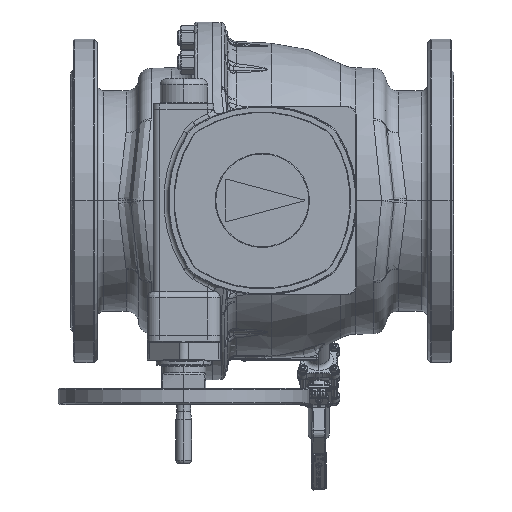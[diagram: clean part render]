
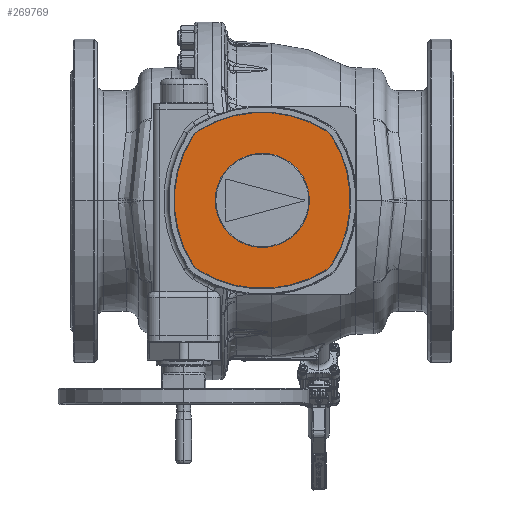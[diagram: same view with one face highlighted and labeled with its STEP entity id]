
A CAD part, top view. The second image highlights one B-rep face of the part: STEP entity #269769.
In plain terms, the highlighted planar face has unit normal (0, 0, 1).
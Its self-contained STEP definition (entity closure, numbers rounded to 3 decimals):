
#256549=CARTESIAN_POINT('',(0.,-50.,173.));
#256550=DIRECTION('',(0.,0.,-1.));
#256551=DIRECTION('',(-0.533,0.846,0.));
#256552=AXIS2_PLACEMENT_3D('',#256549,#256550,#256551);
#256563=CARTESIAN_POINT('',(85.34,85.34,173.));
#256564=DIRECTION('',(0.,0.,1.));
#256565=DIRECTION('',(0.846,0.533,0.));
#256566=AXIS2_PLACEMENT_3D('',#256563,#256564,#256565);
#256577=CARTESIAN_POINT('',(-50.,0.,173.));
#256578=DIRECTION('',(0.,0.,-1.));
#256579=DIRECTION('',(0.846,0.533,0.));
#256580=AXIS2_PLACEMENT_3D('',#256577,#256578,#256579);
#256591=CARTESIAN_POINT('',(85.34,-85.34,173.));
#256592=DIRECTION('',(0.,0.,1.));
#256593=DIRECTION('',(0.533,-0.846,0.));
#256594=AXIS2_PLACEMENT_3D('',#256591,#256592,#256593);
#256605=CARTESIAN_POINT('',(0.,50.,173.));
#256606=DIRECTION('',(0.,0.,-1.));
#256607=DIRECTION('',(0.533,-0.846,0.));
#256608=AXIS2_PLACEMENT_3D('',#256605,#256606,#256607);
#256619=CARTESIAN_POINT('',(-85.34,-85.34,173.));
#256620=DIRECTION('',(0.,0.,1.));
#256621=DIRECTION('',(-0.846,-0.533,0.));
#256622=AXIS2_PLACEMENT_3D('',#256619,#256620,#256621);
#256633=CARTESIAN_POINT('',(50.,0.,173.));
#256634=DIRECTION('',(0.,0.,-1.));
#256635=DIRECTION('',(-0.846,-0.533,0.));
#256636=AXIS2_PLACEMENT_3D('',#256633,#256634,#256635);
#256647=CARTESIAN_POINT('',(-85.34,85.34,173.));
#256648=DIRECTION('',(0.,0.,1.));
#256649=DIRECTION('',(-0.533,0.846,0.));
#256650=AXIS2_PLACEMENT_3D('',#256647,#256648,#256649);
#256652=CARTESIAN_POINT('',(0.,0.,173.));
#256653=DIRECTION('',(0.,0.,1.));
#256654=DIRECTION('',(-1.,0.,0.));
#256655=AXIS2_PLACEMENT_3D('',#256652,#256653,#256654);
#256657=CARTESIAN_POINT('',(0.,0.,173.));
#256658=DIRECTION('',(0.,0.,1.));
#256659=DIRECTION('',(1.,0.,0.));
#256660=AXIS2_PLACEMENT_3D('',#256657,#256658,#256659);
#262529=CARTESIAN_POINT('',(-75.,0.,173.));
#262530=CARTESIAN_POINT('',(75.,0.,173.));
#262531=VERTEX_POINT('',#262529);
#262532=VERTEX_POINT('',#262530);
#262533=CARTESIAN_POINT('',(101.342,-110.717,173.));
#262534=CARTESIAN_POINT('',(110.717,-101.342,173.));
#262535=VERTEX_POINT('',#262533);
#262536=VERTEX_POINT('',#262534);
#262537=CARTESIAN_POINT('',(110.717,101.342,173.));
#262538=VERTEX_POINT('',#262537);
#262539=CARTESIAN_POINT('',(101.342,110.717,173.));
#262540=VERTEX_POINT('',#262539);
#262541=CARTESIAN_POINT('',(-101.342,110.717,173.));
#262542=VERTEX_POINT('',#262541);
#262543=CARTESIAN_POINT('',(-110.717,101.342,173.));
#262544=VERTEX_POINT('',#262543);
#262545=CARTESIAN_POINT('',(-110.717,-101.342,173.));
#262546=VERTEX_POINT('',#262545);
#262547=CARTESIAN_POINT('',(-101.342,-110.717,173.));
#262548=VERTEX_POINT('',#262547);
#269748=CARTESIAN_POINT('',(0.,0.,173.));
#269749=DIRECTION('',(0.,0.,1.));
#269750=DIRECTION('',(1.,0.,0.));
#269751=AXIS2_PLACEMENT_3D('',#269748,#269749,#269750);
#269752=PLANE('',#269751);
#269753=ORIENTED_EDGE('',*,*,#269687,.F.);
#269754=ORIENTED_EDGE('',*,*,#269701,.T.);
#269755=ORIENTED_EDGE('',*,*,#269715,.F.);
#269756=ORIENTED_EDGE('',*,*,#269729,.T.);
#269757=ORIENTED_EDGE('',*,*,#269742,.F.);
#269758=ORIENTED_EDGE('',*,*,#269644,.T.);
#269759=ORIENTED_EDGE('',*,*,#269659,.F.);
#269760=ORIENTED_EDGE('',*,*,#269673,.T.);
#269761=EDGE_LOOP('',(#269753,#269754,#269755,#269756,#269757,#269758,#269759,
#269760));
#269762=FACE_OUTER_BOUND('',#269761,.F.);
#269764=ORIENTED_EDGE('',*,*,#269763,.T.);
#269766=ORIENTED_EDGE('',*,*,#269765,.T.);
#269767=EDGE_LOOP('',(#269764,#269766));
#269768=FACE_BOUND('',#269767,.F.);
#269769=ADVANCED_FACE('',(#269762,#269768),#269752,.T.);
#256553=CIRCLE('',#256552,190.);
#256567=CIRCLE('',#256566,30.);
#256581=CIRCLE('',#256580,190.);
#256595=CIRCLE('',#256594,30.);
#256609=CIRCLE('',#256608,190.);
#256623=CIRCLE('',#256622,30.);
#256637=CIRCLE('',#256636,190.);
#256651=CIRCLE('',#256650,30.);
#256656=CIRCLE('',#256655,75.);
#256661=CIRCLE('',#256660,75.);
#269644=EDGE_CURVE('',#262542,#262540,#256553,.T.);
#269659=EDGE_CURVE('',#262538,#262540,#256567,.T.);
#269673=EDGE_CURVE('',#262538,#262536,#256581,.T.);
#269687=EDGE_CURVE('',#262535,#262536,#256595,.T.);
#269701=EDGE_CURVE('',#262535,#262548,#256609,.T.);
#269715=EDGE_CURVE('',#262546,#262548,#256623,.T.);
#269729=EDGE_CURVE('',#262546,#262544,#256637,.T.);
#269742=EDGE_CURVE('',#262542,#262544,#256651,.T.);
#269763=EDGE_CURVE('',#262531,#262532,#256656,.T.);
#269765=EDGE_CURVE('',#262532,#262531,#256661,.T.);
